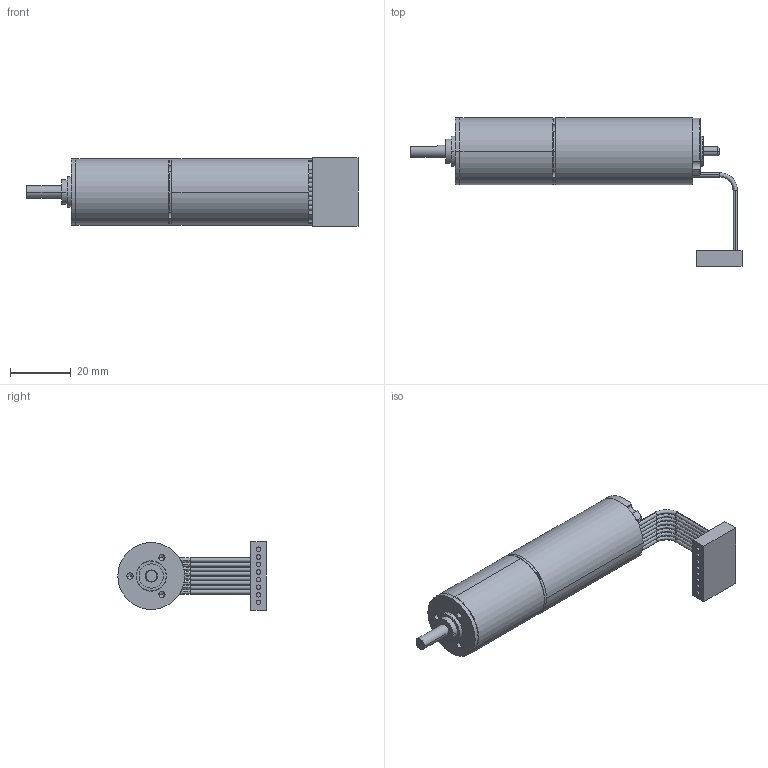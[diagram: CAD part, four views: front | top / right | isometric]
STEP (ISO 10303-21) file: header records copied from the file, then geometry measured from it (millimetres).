
FILE_DESCRIPTION (( 'STEP AP214' ), '1' );
FILE_NAME ('ECMax22L_+_GP022C 2etages.STEP', '2015-08-04T08:52:36', ( '' ), ( '' ), 'SwSTEP 2.0', 'SolidWorks 2014', '' );
FILE_SCHEMA (( 'AUTOMOTIVE_DESIGN' ));
Length unit declared in the file: millimetre
Products named in the file (3): GP022C_Etage 2; ECMax22L; ECMax22L_+_GP022C 2etages
Assembly tree (2 placements, depth 2):
  ECMax22L_+_GP022C 2etages
    ECMax22L
    GP022C_Etage 2
Bounding box: 109.3 x 48.8 x 22.4 mm (x, y, z)
Volume: 30227.1 mm3; surface area: 10737.2 mm2
Topology: 2 solids, 2 shells, 205 faces, 513 edges, 322 vertices
Faces by surface type: cylinder 110, cone 46, plane 33, bspline 16
Entity records: 7391 total; most frequent: CARTESIAN_POINT 1517, DIRECTION 1162, ORIENTED_EDGE 986, AXIS2_PLACEMENT_3D 495, EDGE_CURVE 493, VERTEX_POINT 322, CIRCLE 301, EDGE_LOOP 249
